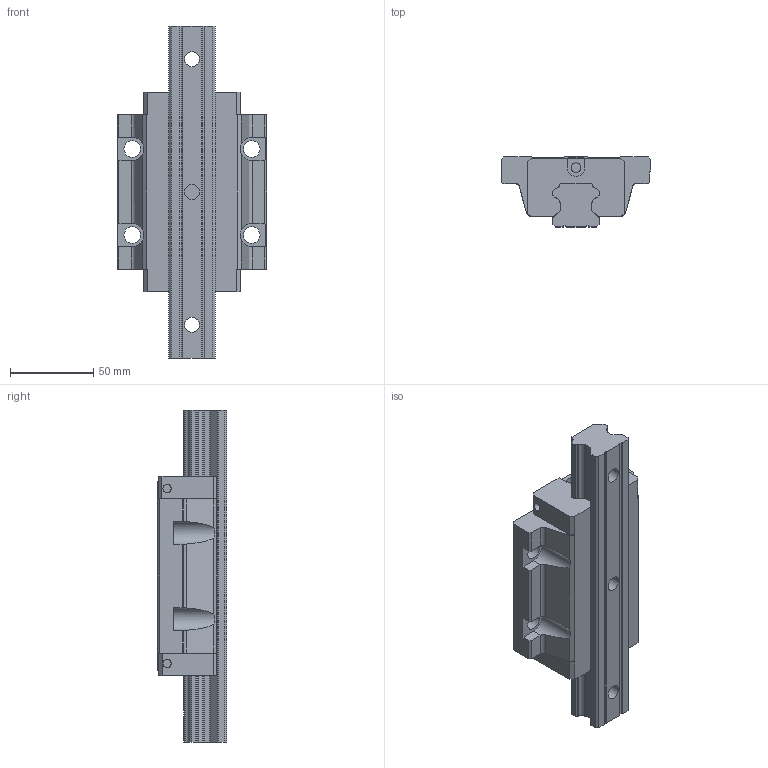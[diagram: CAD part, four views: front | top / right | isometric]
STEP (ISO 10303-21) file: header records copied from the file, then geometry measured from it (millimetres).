
FILE_DESCRIPTION((''),'2;1');
FILE_NAME('QHW30H_ASM','2008-07-11T',('tjchen'),(''),'PRO/ENGINEER BY PARAMETRIC TECHNOLOGY CORPORATION, 2004360','PRO/ENGINEER BY PARAMETRIC TECHNOLOGY CORPORATION, 2004360','');
FILE_SCHEMA(('CONFIG_CONTROL_DESIGN'));
Length unit declared in the file: millimetre
Products named in the file (3): QHW30_1_2; HGR30_1_1; QHW30H_ASM
Assembly tree (2 placements, depth 2):
  QHW30H_ASM
    QHW30_1_2
    HGR30_1_1
Bounding box: 90 x 42 x 200 mm (x, y, z)
Volume: 354604.9 mm3; surface area: 64936.3 mm2
Topology: 2 solids, 2 shells, 233 faces, 716 edges, 500 vertices
Faces by surface type: plane 139, cylinder 94
Entity records: 8290 total; most frequent: CARTESIAN_POINT 1565, ORIENTED_EDGE 1432, DIRECTION 1358, EDGE_CURVE 716, VECTOR 506, LINE 506, VERTEX_POINT 500, AXIS2_PLACEMENT_3D 426
